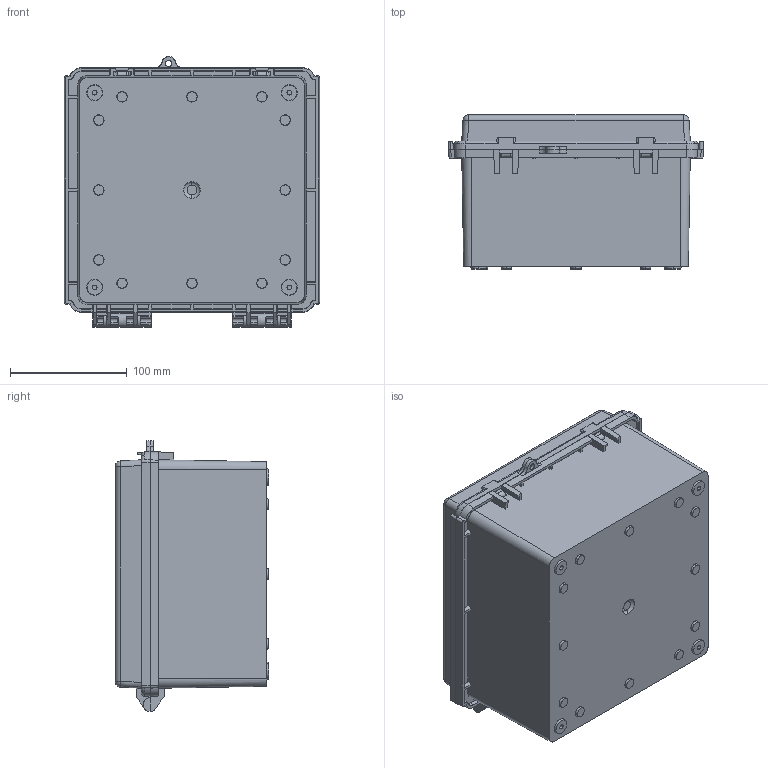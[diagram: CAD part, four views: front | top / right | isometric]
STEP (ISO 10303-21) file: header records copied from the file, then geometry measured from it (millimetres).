
FILE_DESCRIPTION (( 'STEP AP203' ), '1' );
FILE_NAME ('PC212113.STEP', '2020-03-20T08:00:46', ( '' ), ( '' ), 'SwSTEP 2.0', 'SolidWorks 2020', '' );
FILE_SCHEMA (( 'CONFIG_CONTROL_DESIGN' ));
Length unit declared in the file: millimetre
Products named in the file (3): PC212113
Assembly tree (2 placements, depth 2):
  PC212113
    PC212113
    PC212113
Bounding box: 219 x 132 x 232.4 mm (x, y, z)
Volume: 659925.6 mm3; surface area: 398792 mm2
Topology: 2 solids, 2 shells, 641 faces, 1683 edges, 1080 vertices
Faces by surface type: plane 382, cylinder 108, cone 96, bspline 36, torus 10, sphere 9
Entity records: 21023 total; most frequent: CARTESIAN_POINT 5386, ORIENTED_EDGE 3344, DIRECTION 3002, EDGE_CURVE 1672, VECTOR 1110, LINE 1110, VERTEX_POINT 1078, AXIS2_PLACEMENT_3D 946
